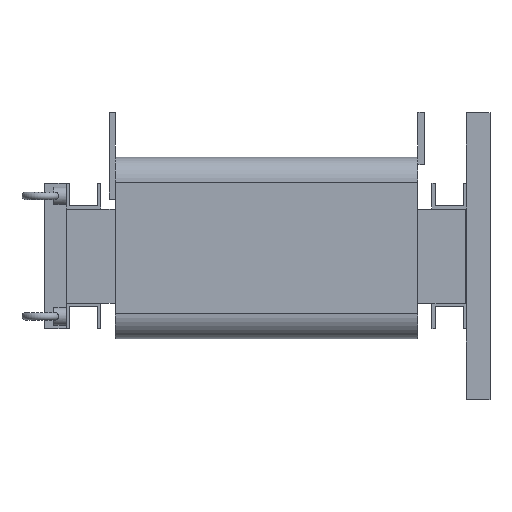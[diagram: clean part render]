
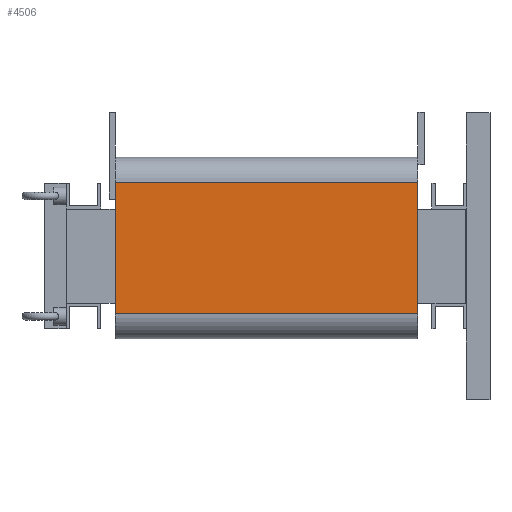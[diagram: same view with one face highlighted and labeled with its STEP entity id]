
A CAD part, left-side view. The second image highlights one B-rep face of the part: STEP entity #4506.
In plain terms, the highlighted planar face has unit normal (-1, 0, 0).
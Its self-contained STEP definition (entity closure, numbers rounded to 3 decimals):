
#429=LINE('',#7498,#945);
#449=LINE('',#7551,#965);
#450=LINE('',#7554,#966);
#451=LINE('',#7555,#967);
#945=VECTOR('',#5864,10.);
#965=VECTOR('',#5912,10.);
#966=VECTOR('',#5915,10.);
#967=VECTOR('',#5916,10.);
#1235=PLANE('',#4856);
#1538=FACE_OUTER_BOUND('',#1828,.T.);
#1828=EDGE_LOOP('',(#4053,#4054,#4055,#4056));
#2324=VERTEX_POINT('',#7495);
#2325=VERTEX_POINT('',#7497);
#2344=VERTEX_POINT('',#7549);
#2345=VERTEX_POINT('',#7553);
#2912=EDGE_CURVE('',#2324,#2325,#429,.T.);
#2940=EDGE_CURVE('',#2344,#2324,#449,.T.);
#2941=EDGE_CURVE('',#2344,#2345,#450,.T.);
#2942=EDGE_CURVE('',#2325,#2345,#451,.T.);
#4053=ORIENTED_EDGE('',*,*,#2940,.F.);
#4054=ORIENTED_EDGE('',*,*,#2941,.T.);
#4055=ORIENTED_EDGE('',*,*,#2942,.F.);
#4056=ORIENTED_EDGE('',*,*,#2912,.F.);
#4506=ADVANCED_FACE('',(#1538),#1235,.T.);
#4856=AXIS2_PLACEMENT_3D('',#7552,#5913,#5914);
#5864=DIRECTION('',(0.,0.,1.));
#5912=DIRECTION('',(0.,1.,0.));
#5913=DIRECTION('center_axis',(-1.,0.,0.));
#5914=DIRECTION('ref_axis',(0.,0.,1.));
#5915=DIRECTION('',(0.,0.,1.));
#5916=DIRECTION('',(0.,-1.,0.));
#7495=CARTESIAN_POINT('',(-302.,562.5,-92.5));
#7497=CARTESIAN_POINT('',(-302.,562.5,118.5));
#7498=CARTESIAN_POINT('',(-302.,562.5,-132.5));
#7549=CARTESIAN_POINT('',(-302.,77.5,-92.5));
#7551=CARTESIAN_POINT('',(-302.,77.5,-92.5));
#7552=CARTESIAN_POINT('Origin',(-302.,77.5,-132.5));
#7553=CARTESIAN_POINT('',(-302.,77.5,118.5));
#7554=CARTESIAN_POINT('',(-302.,77.5,-132.5));
#7555=CARTESIAN_POINT('',(-302.,77.5,118.5));
